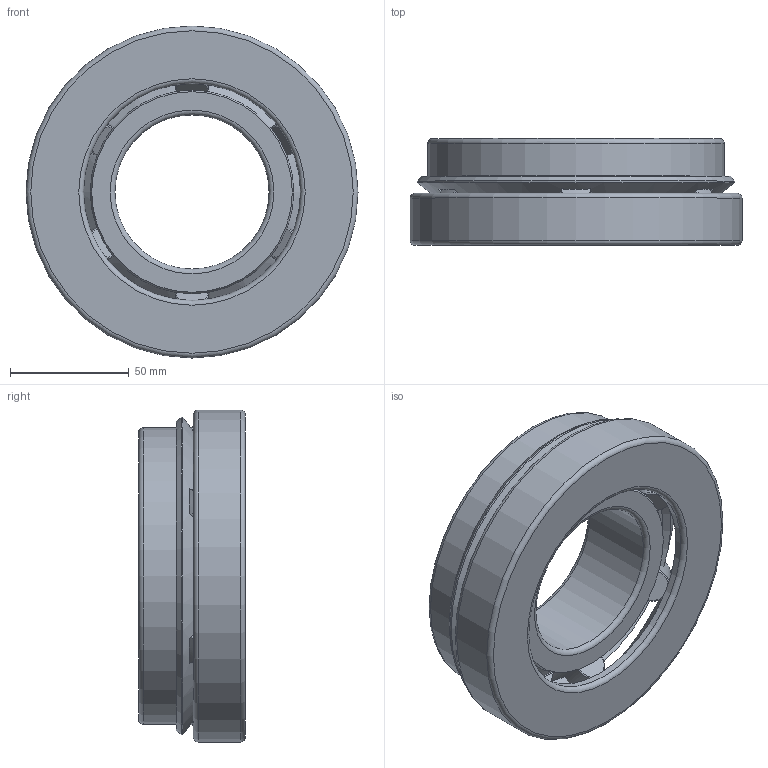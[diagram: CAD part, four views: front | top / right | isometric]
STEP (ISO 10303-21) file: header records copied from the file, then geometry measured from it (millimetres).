
FILE_DESCRIPTION(/* description */ (''),/* implementation_level */ '2;1');
FILE_NAME(/* name */ 'C:\Users\OUPIONTEKM\Desktop\MODELY\29413MC.stp',/* time_stamp */ '2023-09-18T15:23:03+02:00',/* author */ ('OUPIONTEKM'),/* organization */ (''),/* preprocessor_version */ 'ST-DEVELOPER v19',/* originating_system */ 'Autodesk Inventor 2023',/* authorisation */ '');
FILE_SCHEMA (('AUTOMOTIVE_DESIGN { 1 0 10303 214 3 1 1 }'));
Length unit declared in the file: millimetre
Products named in the file (5): 294500MC; 294500-HK; 294500-tK; klietka294500; sudok
Assembly tree (9 placements, depth 2):
  294500MC
    294500-HK
    294500-tK
    klietka294500
    sudok  x6
Bounding box: 140 x 45 x 140 mm (x, y, z)
Volume: 370974.2 mm3; surface area: 89185.6 mm2
Topology: 9 solids, 9 shells, 80 faces, 225 edges, 155 vertices
Faces by surface type: cone 40, torus 19, plane 10, cylinder 10, sphere 1
Full cylindrical faces by diameter (mm): 13.91 x6, 65 x1, 91.5 x1, 125 x1, 140 x1
Entity records: 2235 total; most frequent: CARTESIAN_POINT 591, DIRECTION 314, ORIENTED_EDGE 308, EDGE_CURVE 154, AXIS2_PLACEMENT_3D 146, VERTEX_POINT 106, CIRCLE 77, EDGE_LOOP 60
